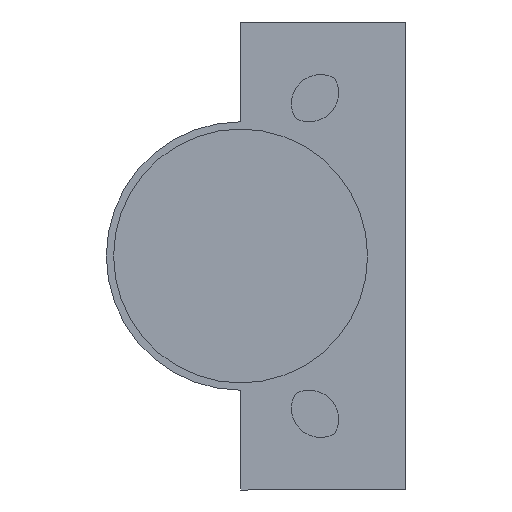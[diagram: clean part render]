
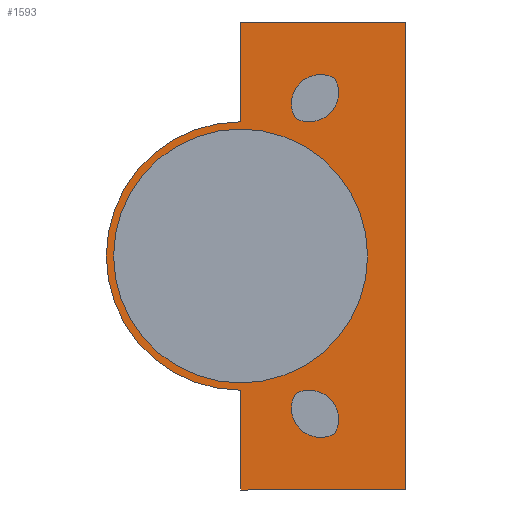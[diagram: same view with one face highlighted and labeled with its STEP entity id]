
A CAD part, front view. The second image highlights one B-rep face of the part: STEP entity #1593.
In plain terms, the highlighted planar face has unit normal (0, -1, 0).
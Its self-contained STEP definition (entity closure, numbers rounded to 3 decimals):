
#63 = EDGE_CURVE ( 'NONE', #1281, #268, #78, .T. ) ;
#67 = CARTESIAN_POINT ( 'NONE',  ( 12., -38.5, 32.25 ) ) ;
#78 = CIRCLE ( 'NONE', #960, 17.5 ) ;
#111 = CARTESIAN_POINT ( 'NONE',  ( 19.523, -38.5, -19.023 ) ) ;
#122 = AXIS2_PLACEMENT_3D ( 'NONE', #784, #776, #772 ) ;
#134 = CIRCLE ( 'NONE', #1466, 18.5 ) ;
#147 = CARTESIAN_POINT ( 'NONE',  ( 19., -38.5, -21. ) ) ;
#168 = CARTESIAN_POINT ( 'NONE',  ( 24.977, -38.5, 24.477 ) ) ;
#196 = CARTESIAN_POINT ( 'NONE',  ( 34.75, -38.5, -32.25 ) ) ;
#202 = EDGE_CURVE ( 'NONE', #1423, #1343, #932, .T. ) ;
#207 = ORIENTED_EDGE ( 'NONE', *, *, #63, .F. ) ;
#226 = DIRECTION ( 'NONE',  ( 1., 0., 0. ) ) ;
#230 = DIRECTION ( 'NONE',  ( 0., 1., 0. ) ) ;
#231 = AXIS2_PLACEMENT_3D ( 'NONE', #249, #240, #226 ) ;
#236 = CARTESIAN_POINT ( 'NONE',  ( 24.977, -38.5, -24.477 ) ) ;
#240 = DIRECTION ( 'NONE',  ( 0., -1., 0. ) ) ;
#249 = CARTESIAN_POINT ( 'NONE',  ( 23., -38.5, -21. ) ) ;
#268 = VERTEX_POINT ( 'NONE', #1377 ) ;
#286 = DIRECTION ( 'NONE',  ( 1., 0., 0. ) ) ;
#292 = CARTESIAN_POINT ( 'NONE',  ( 34.75, -38.5, 32.25 ) ) ;
#297 = DIRECTION ( 'NONE',  ( 0., 0., 1. ) ) ;
#305 = ORIENTED_EDGE ( 'NONE', *, *, #1579, .F. ) ;
#332 = EDGE_CURVE ( 'NONE', #1335, #1423, #1073, .T. ) ;
#334 = DIRECTION ( 'NONE',  ( -1., 0., 0. ) ) ;
#352 = DIRECTION ( 'NONE',  ( 1., 0., 0. ) ) ;
#353 = DIRECTION ( 'NONE',  ( 0., -1., 0. ) ) ;
#366 = CARTESIAN_POINT ( 'NONE',  ( 19., -38.5, 21. ) ) ;
#368 = CARTESIAN_POINT ( 'NONE',  ( 21.5, -38.5, 22.5 ) ) ;
#371 = PLANE ( 'NONE',  #1056 ) ;
#378 = LINE ( 'NONE', #426, #741 ) ;
#385 = CARTESIAN_POINT ( 'NONE',  ( 12., -38.5, 0. ) ) ;
#396 = CARTESIAN_POINT ( 'NONE',  ( 23., -38.5, 21. ) ) ;
#402 = DIRECTION ( 'NONE',  ( 1., 0., 0. ) ) ;
#410 = DIRECTION ( 'NONE',  ( 0., -1., 0. ) ) ;
#415 = CARTESIAN_POINT ( 'NONE',  ( 23., -38.5, 21. ) ) ;
#421 = ORIENTED_EDGE ( 'NONE', *, *, #807, .F. ) ;
#426 = CARTESIAN_POINT ( 'NONE',  ( 12., -38.5, -31. ) ) ;
#440 = DIRECTION ( 'NONE',  ( 0., 0., 1. ) ) ;
#449 = EDGE_CURVE ( 'NONE', #1266, #1048, #134, .T. ) ;
#455 = DIRECTION ( 'NONE',  ( 0., -1., 0. ) ) ;
#459 = CARTESIAN_POINT ( 'NONE',  ( 12., -38.5, 18.5 ) ) ;
#469 = DIRECTION ( 'NONE',  ( 1., 0., 0. ) ) ;
#477 = VERTEX_POINT ( 'NONE', #698 ) ;
#478 = CARTESIAN_POINT ( 'NONE',  ( -5.5, -38.5, 0. ) ) ;
#481 = AXIS2_PLACEMENT_3D ( 'NONE', #1027, #1018, #1010 ) ;
#482 = FACE_BOUND ( 'NONE', #1045, .T. ) ;
#492 = CARTESIAN_POINT ( 'NONE',  ( 12., -38.5, -18.5 ) ) ;
#493 = DIRECTION ( 'NONE',  ( 1., 0., 0. ) ) ;
#525 = ORIENTED_EDGE ( 'NONE', *, *, #449, .F. ) ;
#539 = CIRCLE ( 'NONE', #657, 4. ) ;
#574 = EDGE_CURVE ( 'NONE', #1048, #1389, #1200, .T. ) ;
#619 = CARTESIAN_POINT ( 'NONE',  ( 23., -38.5, -21. ) ) ;
#620 = EDGE_LOOP ( 'NONE', ( #850, #305, #1276 ) ) ;
#646 = CARTESIAN_POINT ( 'NONE',  ( 19.523, -38.5, 19.023 ) ) ;
#652 = ORIENTED_EDGE ( 'NONE', *, *, #202, .F. ) ;
#654 = CARTESIAN_POINT ( 'NONE',  ( 34.75, -38.5, -32.25 ) ) ;
#657 = AXIS2_PLACEMENT_3D ( 'NONE', #415, #410, #402 ) ;
#671 = DIRECTION ( 'NONE',  ( 1., 0., 0. ) ) ;
#689 = EDGE_CURVE ( 'NONE', #1389, #477, #1550, .T. ) ;
#698 = CARTESIAN_POINT ( 'NONE',  ( 34.75, -38.5, 32.25 ) ) ;
#702 = DIRECTION ( 'NONE',  ( -1., 0., 0. ) ) ;
#704 = DIRECTION ( 'NONE',  ( 0., 1., 0. ) ) ;
#708 = EDGE_LOOP ( 'NONE', ( #1277, #1021, #421, #1511, #1098, #525 ) ) ;
#711 = CARTESIAN_POINT ( 'NONE',  ( 12., -38.5, 0. ) ) ;
#716 = VECTOR ( 'NONE', #286, 1000. ) ;
#724 = EDGE_LOOP ( 'NONE', ( #1542, #1163, #652 ) ) ;
#739 = CIRCLE ( 'NONE', #1591, 4. ) ;
#741 = VECTOR ( 'NONE', #297, 1000. ) ;
#755 = DIRECTION ( 'NONE',  ( 0., -1., 0. ) ) ;
#772 = DIRECTION ( 'NONE',  ( -1., 0., 0. ) ) ;
#774 = AXIS2_PLACEMENT_3D ( 'NONE', #368, #353, #352 ) ;
#776 = DIRECTION ( 'NONE',  ( 0., -1., 0. ) ) ;
#784 = CARTESIAN_POINT ( 'NONE',  ( 12., -38.5, 0. ) ) ;
#787 = VERTEX_POINT ( 'NONE', #168 ) ;
#807 = EDGE_CURVE ( 'NONE', #477, #1352, #1273, .T. ) ;
#813 = VECTOR ( 'NONE', #440, 1000. ) ;
#850 = ORIENTED_EDGE ( 'NONE', *, *, #1590, .F. ) ;
#906 = EDGE_CURVE ( 'NONE', #1478, #1352, #1574, .T. ) ;
#932 = CIRCLE ( 'NONE', #231, 4. ) ;
#960 = AXIS2_PLACEMENT_3D ( 'NONE', #1025, #1022, #1016 ) ;
#995 = EDGE_CURVE ( 'NONE', #1478, #1266, #378, .T. ) ;
#1010 = DIRECTION ( 'NONE',  ( 1., 0., 0. ) ) ;
#1016 = DIRECTION ( 'NONE',  ( -1., 0., 0. ) ) ;
#1018 = DIRECTION ( 'NONE',  ( 0., -1., 0. ) ) ;
#1021 = ORIENTED_EDGE ( 'NONE', *, *, #906, .T. ) ;
#1022 = DIRECTION ( 'NONE',  ( 0., -1., 0. ) ) ;
#1025 = CARTESIAN_POINT ( 'NONE',  ( 12., -38.5, 0. ) ) ;
#1027 = CARTESIAN_POINT ( 'NONE',  ( 21.5, -38.5, -22.5 ) ) ;
#1045 = EDGE_LOOP ( 'NONE', ( #207, #1222 ) ) ;
#1048 = VERTEX_POINT ( 'NONE', #1385 ) ;
#1052 = CIRCLE ( 'NONE', #1547, 4. ) ;
#1056 = AXIS2_PLACEMENT_3D ( 'NONE', #385, #230, #334 ) ;
#1073 = CIRCLE ( 'NONE', #481, 4. ) ;
#1098 = ORIENTED_EDGE ( 'NONE', *, *, #574, .F. ) ;
#1110 = DIRECTION ( 'NONE',  ( 0., 0., -1. ) ) ;
#1163 = ORIENTED_EDGE ( 'NONE', *, *, #1403, .F. ) ;
#1164 = EDGE_CURVE ( 'NONE', #268, #1281, #1430, .T. ) ;
#1200 = LINE ( 'NONE', #459, #813 ) ;
#1222 = ORIENTED_EDGE ( 'NONE', *, *, #1164, .F. ) ;
#1242 = CIRCLE ( 'NONE', #774, 4. ) ;
#1266 = VERTEX_POINT ( 'NONE', #492 ) ;
#1273 = LINE ( 'NONE', #1355, #1464 ) ;
#1276 = ORIENTED_EDGE ( 'NONE', *, *, #1559, .F. ) ;
#1277 = ORIENTED_EDGE ( 'NONE', *, *, #995, .F. ) ;
#1281 = VERTEX_POINT ( 'NONE', #478 ) ;
#1305 = VERTEX_POINT ( 'NONE', #366 ) ;
#1335 = VERTEX_POINT ( 'NONE', #236 ) ;
#1343 = VERTEX_POINT ( 'NONE', #147 ) ;
#1352 = VERTEX_POINT ( 'NONE', #196 ) ;
#1355 = CARTESIAN_POINT ( 'NONE',  ( 34.75, -38.5, 32.25 ) ) ;
#1377 = CARTESIAN_POINT ( 'NONE',  ( 29.5, -38.5, 0. ) ) ;
#1385 = CARTESIAN_POINT ( 'NONE',  ( 12., -38.5, 18.5 ) ) ;
#1389 = VERTEX_POINT ( 'NONE', #67 ) ;
#1403 = EDGE_CURVE ( 'NONE', #1343, #1335, #739, .T. ) ;
#1423 = VERTEX_POINT ( 'NONE', #111 ) ;
#1430 = CIRCLE ( 'NONE', #122, 17.5 ) ;
#1436 = VERTEX_POINT ( 'NONE', #646 ) ;
#1437 = FACE_BOUND ( 'NONE', #724, .T. ) ;
#1440 = VECTOR ( 'NONE', #671, 1000. ) ;
#1464 = VECTOR ( 'NONE', #1110, 1000. ) ;
#1466 = AXIS2_PLACEMENT_3D ( 'NONE', #711, #704, #702 ) ;
#1478 = VERTEX_POINT ( 'NONE', #1540 ) ;
#1504 = FACE_OUTER_BOUND ( 'NONE', #708, .T. ) ;
#1511 = ORIENTED_EDGE ( 'NONE', *, *, #689, .F. ) ;
#1540 = CARTESIAN_POINT ( 'NONE',  ( 12., -38.5, -32.25 ) ) ;
#1542 = ORIENTED_EDGE ( 'NONE', *, *, #332, .F. ) ;
#1547 = AXIS2_PLACEMENT_3D ( 'NONE', #396, #455, #469 ) ;
#1550 = LINE ( 'NONE', #292, #716 ) ;
#1559 = EDGE_CURVE ( 'NONE', #787, #1305, #1052, .T. ) ;
#1574 = LINE ( 'NONE', #654, #1440 ) ;
#1579 = EDGE_CURVE ( 'NONE', #1305, #1436, #539, .T. ) ;
#1590 = EDGE_CURVE ( 'NONE', #1436, #787, #1242, .T. ) ;
#1591 = AXIS2_PLACEMENT_3D ( 'NONE', #619, #755, #493 ) ;
#1593 = ADVANCED_FACE ( 'NONE', ( #1504, #1437, #482, #1602 ), #371, .F. ) ;
#1602 = FACE_BOUND ( 'NONE', #620, .T. ) ;
